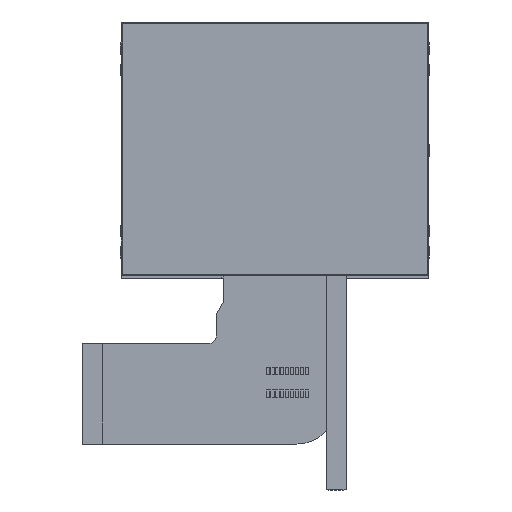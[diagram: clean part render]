
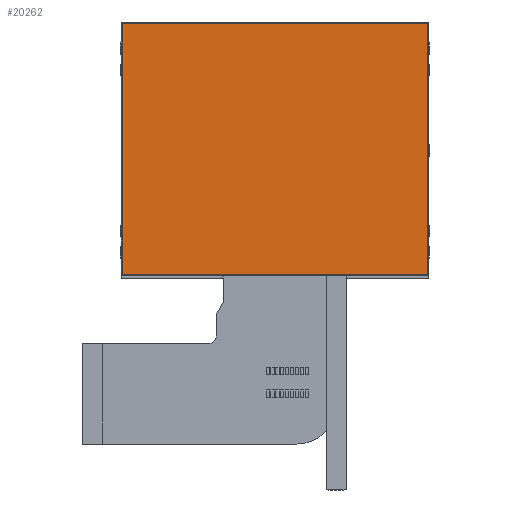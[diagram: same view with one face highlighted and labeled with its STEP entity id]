
A CAD part, top view. The second image highlights one B-rep face of the part: STEP entity #20262.
In plain terms, the highlighted planar face has unit normal (0, 0, 1).
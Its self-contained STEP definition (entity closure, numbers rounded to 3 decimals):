
#1134 = VECTOR ( 'NONE', #17337, 1000. ) ;
#1453 = ORIENTED_EDGE ( 'NONE', *, *, #11509, .T. ) ;
#2048 = CARTESIAN_POINT ( 'NONE',  ( -38.8, 32.2, 4.45 ) ) ;
#2633 = LINE ( 'NONE', #5913, #1134 ) ;
#3059 = VERTEX_POINT ( 'NONE', #14275 ) ;
#3190 = VERTEX_POINT ( 'NONE', #2048 ) ;
#4405 = DIRECTION ( 'NONE',  ( 1., 0., 0. ) ) ;
#4472 = ORIENTED_EDGE ( 'NONE', *, *, #18655, .T. ) ;
#5262 = DIRECTION ( 'NONE',  ( 1., 0., 0. ) ) ;
#5894 = CARTESIAN_POINT ( 'NONE',  ( 38.8, 32.2, 4.45 ) ) ;
#5895 = CARTESIAN_POINT ( 'NONE',  ( 0., 0., 4.45 ) ) ;
#5913 = CARTESIAN_POINT ( 'NONE',  ( -38.8, 32.2, 4.45 ) ) ;
#6022 = AXIS2_PLACEMENT_3D ( 'NONE', #5895, #14092, #4405 ) ;
#6536 = EDGE_LOOP ( 'NONE', ( #15719, #10051, #1453, #4472 ) ) ;
#6887 = VERTEX_POINT ( 'NONE', #7885 ) ;
#7414 = EDGE_CURVE ( 'NONE', #3059, #6887, #18648, .T. ) ;
#7659 = PLANE ( 'NONE',  #6022 ) ;
#7885 = CARTESIAN_POINT ( 'NONE',  ( 38.8, -31.6, 4.45 ) ) ;
#8358 = CARTESIAN_POINT ( 'NONE',  ( -38.8, -31.6, 4.45 ) ) ;
#9990 = VECTOR ( 'NONE', #20682, 1000. ) ;
#10051 = ORIENTED_EDGE ( 'NONE', *, *, #7414, .T. ) ;
#10328 = VECTOR ( 'NONE', #5262, 1000. ) ;
#10716 = FACE_OUTER_BOUND ( 'NONE', #6536, .T. ) ;
#11509 = EDGE_CURVE ( 'NONE', #6887, #19650, #12082, .T. ) ;
#11893 = CARTESIAN_POINT ( 'NONE',  ( 38.8, 32.2, 4.45 ) ) ;
#12082 = LINE ( 'NONE', #5894, #9990 ) ;
#12658 = DIRECTION ( 'NONE',  ( 0., -1., 0. ) ) ;
#14092 = DIRECTION ( 'NONE',  ( 0., 0., 1. ) ) ;
#14275 = CARTESIAN_POINT ( 'NONE',  ( -38.8, -31.6, 4.45 ) ) ;
#14781 = VECTOR ( 'NONE', #12658, 1000. ) ;
#14852 = EDGE_CURVE ( 'NONE', #3190, #3059, #19803, .T. ) ;
#15719 = ORIENTED_EDGE ( 'NONE', *, *, #14852, .T. ) ;
#16079 = CARTESIAN_POINT ( 'NONE',  ( -38.8, 32.2, 4.45 ) ) ;
#17337 = DIRECTION ( 'NONE',  ( -1., 0., 0. ) ) ;
#18648 = LINE ( 'NONE', #8358, #10328 ) ;
#18655 = EDGE_CURVE ( 'NONE', #19650, #3190, #2633, .T. ) ;
#19650 = VERTEX_POINT ( 'NONE', #11893 ) ;
#19803 = LINE ( 'NONE', #16079, #14781 ) ;
#20262 = ADVANCED_FACE ( 'NONE', ( #10716 ), #7659, .T. ) ;
#20682 = DIRECTION ( 'NONE',  ( 0., 1., 0. ) ) ;
